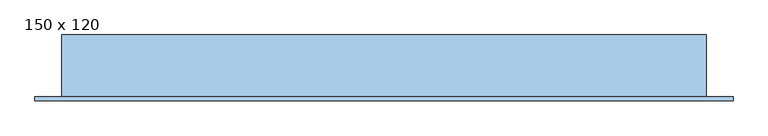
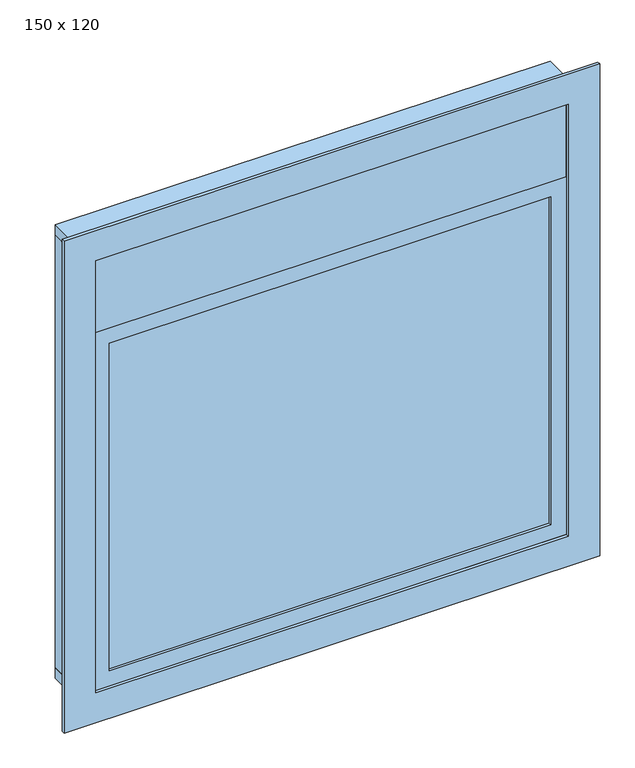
"""IFC4 building model written with IfcOpenShell, lengths in millimetres: window geometry, JANELA COM ESQUADRIA FIXA - 1 FOLHA + PERSIANA INTEGRADA : 150 x 120."""

from ifc_helpers import new_model, si_unit, frame, origin, place, context, project, spatial, polyline, outline, extrude, source, transform, mapped, element, save


def window_150_x_120_389f36cc(model_context):
    return source(origin(), model_context, "Body", "SweptSolid", [
        extrude(outline(polyline([(-570.5964491, -60.3758395), (829.4035509, -60.3758395), (829.4035509, -66.3758395), (-570.5964491, -66.3758395), (-570.5964491, -60.3758395)])), frame((0.0, 0.0, 1050.0), z_axis=(0.0, 0.0, 1.0), x_axis=(1.0, 0.0, 0.0)), (0.0, 0.0, 1.0), 1100.0),
        extrude(outline(polyline([(2200.0, -620.5964491), (1000.0, -620.5964491), (1000.0, 879.4035509), (2200.0, 879.4035509), (2200.0, -620.5964491)]), holes=[polyline([(2150.0, -570.5964491), (2150.0, 829.4035509), (1050.0, 829.4035509), (1050.0, -570.5964491), (2150.0, -570.5964491)])]), frame((0.0, -75.8758395, 0.0), z_axis=(0.0, 1.0, 0.0), x_axis=(0.0, 0.0, 1.0)), (0.0, 0.0, 1.0), 25.0),
        extrude(outline(polyline([(900.0, -720.5964491), (900.0, 979.4035509), (2550.0, 979.4035509), (2550.0, -720.5964491), (900.0, -720.5964491)]), holes=[polyline([(2450.0, -620.5964491), (2450.0, 879.4035509), (1000.0, 879.4035509), (1000.0, -620.5964491), (2450.0, -620.5964491)])]), frame((0.0, -85.8758395, 0.0), z_axis=(0.0, 1.0, 0.0), x_axis=(0.0, 0.0, 1.0)), (0.0, 0.0, 1.0), 10.0),
        extrude(outline(polyline([(-655.5964491, 74.1241605), (-620.5964491, 74.1241605), (-620.5964491, -75.8758395), (-655.5964491, -75.8758395), (-655.5964491, 74.1241605)])), frame((0.0, 0.0, 1000.0), z_axis=(0.0, 0.0, 1.0), x_axis=(1.0, 0.0, 0.0)), (0.0, 0.0, 1.0), 1450.0),
        extrude(outline(polyline([(879.4035509, 74.1241605), (914.4035509, 74.1241605), (914.4035509, -75.8758395), (879.4035509, -75.8758395), (879.4035509, 74.1241605)])), frame((0.0, 0.0, 1000.0), z_axis=(0.0, 0.0, 1.0), x_axis=(1.0, 0.0, 0.0)), (0.0, 0.0, 1.0), 1450.0),
        extrude(outline(polyline([(-655.5964491, 74.1241605), (914.4035509, 74.1241605), (914.4035509, -75.8758395), (-655.5964491, -75.8758395), (-655.5964491, 74.1241605)])), frame((0.0, 0.0, 965.0), z_axis=(0.0, 0.0, 1.0), x_axis=(1.0, 0.0, 0.0)), (0.0, 0.0, 1.0), 35.0),
        extrude(outline(polyline([(879.4035509, 53.1241605), (879.4035509, 45.1241605), (-620.5964491, 45.1241605), (-620.5964491, 53.1241605), (879.4035509, 53.1241605)])), frame((0.0, 0.0, 2330.0), z_axis=(0.0, 0.0, 1.0), x_axis=(1.0, 0.0, 0.0)), (0.0, 0.0, 1.0), 120.0),
        extrude(outline(polyline([(879.4035509, 69.1241605), (879.4035509, 64.1241605), (-620.5964491, 64.1241605), (-620.5964491, 69.1241605), (879.4035509, 69.1241605)])), frame((0.0, 0.0, 2200.0), z_axis=(0.0, 0.0, 1.0), x_axis=(1.0, 0.0, 0.0)), (0.0, 0.0, 1.0), 250.0),
        extrude(outline(polyline([(-75.8758395, 2200.0), (-75.8758395, 2450.0), (-70.8758395, 2450.0), (-70.8758395, 2205.0), (34.1241605, 2205.0), (34.1241605, 2200.0), (-75.8758395, 2200.0)])), frame((-620.5964491, 0.0, 0.0), z_axis=(1.0, 0.0, 0.0), x_axis=(0.0, 1.0, 0.0)), (0.0, 0.0, 1.0), 1500.0),
        extrude(outline(polyline([(-655.5964491, 74.1241605), (914.4035509, 74.1241605), (914.4035509, -75.8758395), (-655.5964491, -75.8758395), (-655.5964491, 74.1241605)])), frame((0.0, 0.0, 2450.0), z_axis=(0.0, 0.0, 1.0), x_axis=(1.0, 0.0, 0.0)), (0.0, 0.0, 1.0), 35.0),
        extrude(outline(polyline([(-580.5964491, 64.1241605), (-580.5964491, 59.1241605), (-620.5964491, 59.1241605), (-620.5964491, 64.1241605), (-580.5964491, 64.1241605)])), frame((0.0, 0.0, 1000.0), z_axis=(0.0, 0.0, 1.0), x_axis=(1.0, 0.0, 0.0)), (0.0, 0.0, 1.0), 1450.0),
        extrude(outline(polyline([(-620.5964491, 39.1241605), (-580.5964491, 39.1241605), (-580.5964491, 34.1241605), (-620.5964491, 34.1241605), (-620.5964491, 39.1241605)])), frame((0.0, 0.0, 1000.0), z_axis=(0.0, 0.0, 1.0), x_axis=(1.0, 0.0, 0.0)), (0.0, 0.0, 1.0), 1450.0),
        extrude(outline(polyline([(839.4035509, 64.1241605), (879.4035509, 64.1241605), (879.4035509, 59.1241605), (839.4035509, 59.1241605), (839.4035509, 64.1241605)])), frame((0.0, 0.0, 1000.0), z_axis=(0.0, 0.0, 1.0), x_axis=(1.0, 0.0, 0.0)), (0.0, 0.0, 1.0), 1450.0),
        extrude(outline(polyline([(879.4035509, 39.1241605), (879.4035509, 34.1241605), (839.4035509, 34.1241605), (839.4035509, 39.1241605), (879.4035509, 39.1241605)])), frame((0.0, 0.0, 1000.0), z_axis=(0.0, 0.0, 1.0), x_axis=(1.0, 0.0, 0.0)), (0.0, 0.0, 1.0), 1450.0),
    ])


if __name__ == "__main__":
    model = new_model("IFC4")
    model_context = context("Model", 3, world=origin())
    ifc_project = project(units=[si_unit("LENGTHUNIT", "METRE", prefix="MILLI")], contexts=[model_context])
    site = spatial("IfcSite", under=ifc_project)
    building = spatial("IfcBuilding", under=site)
    placement = place(None, origin())
    window_150_x_120_shape = window_150_x_120_389f36cc(model_context)
    element("IfcWindow", 1, ObjectType="JANELA COM ESQUADRIA FIXA - 1 FOLHA + PERSIANA INTEGRADA : 150 x 120", at=placement, inside=building, context=model_context, shape_type="MappedRepresentation", body=[
        mapped(window_150_x_120_shape, transform((0.0, 0.0, 0.0), x_axis=(1.0, 0.0, 0.0), y_axis=(0.0, 1.0, 0.0), z_axis=(0.0, 0.0, 1.0))),
    ])
    save(model, "model.ifc")
